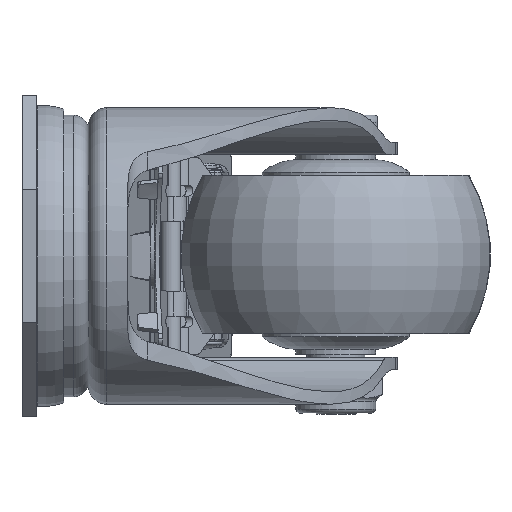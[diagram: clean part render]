
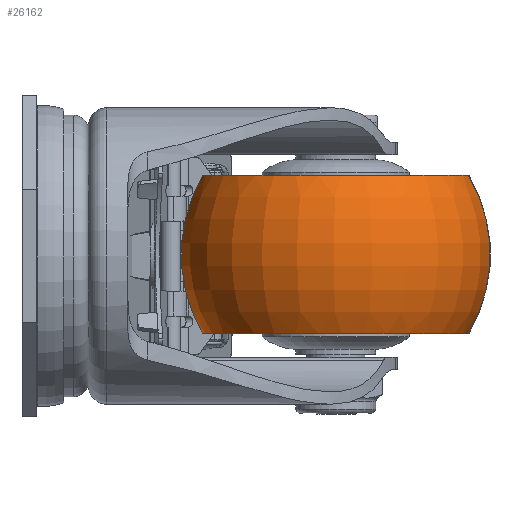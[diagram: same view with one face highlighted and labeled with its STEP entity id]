
A CAD part, left-side view. The second image highlights one B-rep face of the part: STEP entity #26162.
In plain terms, the highlighted toroidal (fillet/blend) face has major radius 0.806 mm and minor radius 30.694 mm.
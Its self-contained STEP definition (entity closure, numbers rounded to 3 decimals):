
#2528 = CARTESIAN_POINT ( 'NONE',  ( 0., 0., 0.806 ) ) ;
#2529 = CARTESIAN_POINT ( 'NONE',  ( 0., 16., 27. ) ) ;
#2530 = CARTESIAN_POINT ( 'NONE',  ( 0., 16., -27. ) ) ;
#2582 = CARTESIAN_POINT ( 'NONE',  ( 0., -16., -27. ) ) ;
#2588 = CARTESIAN_POINT ( 'NONE',  ( 0., -16., 27. ) ) ;
#2589 = DIRECTION ( 'NONE',  ( 0., 0., -1. ) ) ;
#2590 = DIRECTION ( 'NONE',  ( 1., 0., 0. ) ) ;
#2591 = AXIS2_PLACEMENT_3D ( 'NONE', #2528, #2590, #2589 ) ;
#2592 = CIRCLE ( 'NONE', #2591, 30.694 ) ;
#2659 = DIRECTION ( 'NONE',  ( 0., 0., 1. ) ) ;
#2660 = DIRECTION ( 'NONE',  ( -1., 0., 0. ) ) ;
#2661 = CARTESIAN_POINT ( 'NONE',  ( 0., 0., -0.806 ) ) ;
#2662 = AXIS2_PLACEMENT_3D ( 'NONE', #2661, #2660, #2659 ) ;
#2663 = CIRCLE ( 'NONE', #2662, 30.694 ) ;
#2874 = DIRECTION ( 'NONE',  ( 0., 0., -1. ) ) ;
#2875 = DIRECTION ( 'NONE',  ( 0., -1., 0. ) ) ;
#2876 = CARTESIAN_POINT ( 'NONE',  ( 0., 16., 0. ) ) ;
#2877 = AXIS2_PLACEMENT_3D ( 'NONE', #2876, #2875, #2874 ) ;
#2878 = CIRCLE ( 'NONE', #2877, 27. ) ;
#2910 = CIRCLE ( 'NONE', #2977, 27. ) ;
#2911 = DIRECTION ( 'NONE',  ( 0., 0., -1. ) ) ;
#2912 = DIRECTION ( 'NONE',  ( 0., -1., 0. ) ) ;
#2913 = AXIS2_PLACEMENT_3D ( 'NONE', #2919, #2912, #2911 ) ;
#2914 = TOROIDAL_SURFACE ( 'NONE', #2913, 0.806, 30.694 ) ;
#2915 = FACE_OUTER_BOUND ( 'NONE', #26163, .T. ) ;
#2919 = CARTESIAN_POINT ( 'NONE',  ( 0., 0., 0. ) ) ;
#2974 = DIRECTION ( 'NONE',  ( 0., 0., -1. ) ) ;
#2975 = DIRECTION ( 'NONE',  ( 0., -1., 0. ) ) ;
#2976 = CARTESIAN_POINT ( 'NONE',  ( 0., -16., 0. ) ) ;
#2977 = AXIS2_PLACEMENT_3D ( 'NONE', #2976, #2975, #2974 ) ;
#25819 = VERTEX_POINT ( 'NONE', #2530 ) ;
#25821 = VERTEX_POINT ( 'NONE', #2529 ) ;
#25823 = EDGE_CURVE ( 'NONE', #25821, #25824, #2592, .T. ) ;
#25824 = VERTEX_POINT ( 'NONE', #2588 ) ;
#25829 = VERTEX_POINT ( 'NONE', #2582 ) ;
#25919 = EDGE_CURVE ( 'NONE', #25819, #25829, #2663, .T. ) ;
#26074 = EDGE_CURVE ( 'NONE', #25821, #25819, #2878, .T. ) ;
#26162 = ADVANCED_FACE ( 'NONE', ( #2915 ), #2914, .T. ) ;
#26163 = EDGE_LOOP ( 'NONE', ( #26164, #26165, #26167, #26168 ) ) ;
#26164 = ORIENTED_EDGE ( 'NONE', *, *, #25823, .F. ) ;
#26165 = ORIENTED_EDGE ( 'NONE', *, *, #26074, .T. ) ;
#26167 = ORIENTED_EDGE ( 'NONE', *, *, #25919, .T. ) ;
#26168 = ORIENTED_EDGE ( 'NONE', *, *, #26169, .F. ) ;
#26169 = EDGE_CURVE ( 'NONE', #25824, #25829, #2910, .T. ) ;
